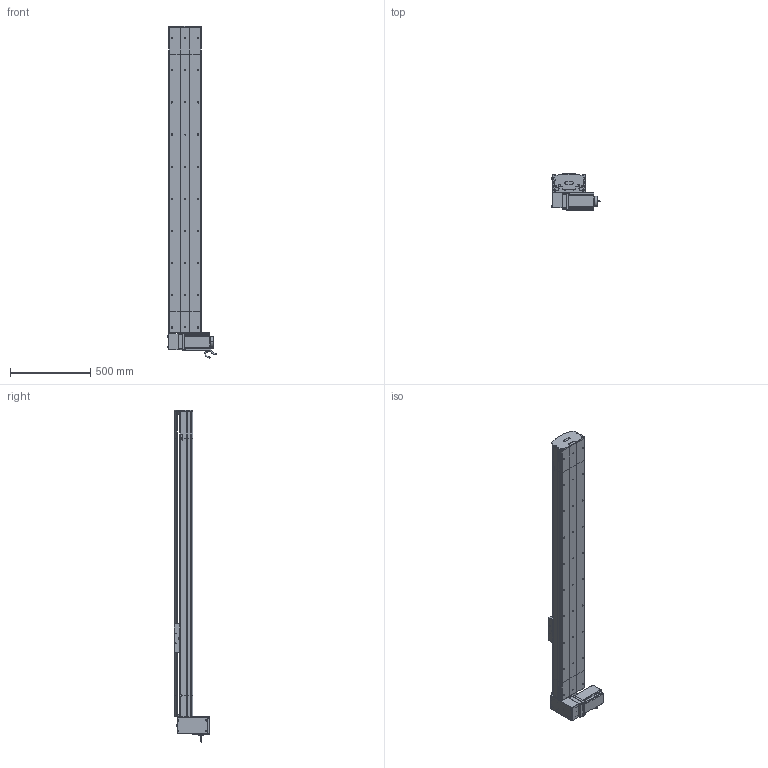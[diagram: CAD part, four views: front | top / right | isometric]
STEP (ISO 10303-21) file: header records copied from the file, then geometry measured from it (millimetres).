
FILE_DESCRIPTION (( 'STEP AP214' ), '1' );
FILE_NAME ('D20 TBH RU S1600.STEP', '2010-07-01T07:28:29', ( 'Conseil Régional Haute-Normandie' ), ( 'Conseil Régional Haute-Normandie' ), 'SwSTEP 2.0', 'SolidWorks 2010', '' );
FILE_SCHEMA (( 'AUTOMOTIVE_DESIGN' ));
Length unit declared in the file: millimetre
Products named in the file (40): head RU_Default; cache arbre D20_Default; vis M5 L25_Default; plaque de  bout head D20B RU_Default; couvercle head D20_Default; rail head D20; poulie head D20_Default; rail tail D20; corpl head D20_Default; Couroie tail D20_Default; plaque de  bout tail D20_Default; poulie tail D20_Default; vis M5 L12_Default; vis M5 L8 90°_Default; tete d''axe poulie D20B; couvercle tail D20_Default; corpl tail D20_Default; tail D20_Default; vis M8 L12_Default; codeur 110BLDC170A-630x; corps 110BLDC170A-630x; avant 110BLDC170A-630x; clavette; Conecteur_Default; Conecteur2_Default; vis M5 L70_Default; Plaque racord D20LH_Default; Moteur motionking 110BLDC170A-640x; Renvoi RU D20_Default; vis M5 L5_Default; couroie_Default; cache D20_Default; chariot D20B_Default; D20 TBH RU S1600; Course B L1600_Default; guide D20B; Chariot D20B; rail + couroie  D20 S1500; couvercle D20 S1600_Default; corp D20 S1600_Default
Assembly tree (71 placements, depth 4):
  D20 TBH RU S1600
    chariot D20B_Default
      guide D20B  x2
      vis M5 L12_Default  x4
      Chariot D20B
    Course B L1600_Default
      corp D20 S1600_Default
      rail + couroie  D20 S1500
      couvercle D20 S1600_Default
    tail D20_Default
      poulie tail D20_Default
      vis M5 L12_Default  x4
      rail tail D20
      vis M5 L8 90°_Default  x2
      vis M5 L25_Default  x2
      tete d''axe poulie D20B
      corpl tail D20_Default
      couvercle tail D20_Default
      Couroie tail D20_Default
      plaque de  bout tail D20_Default
    head RU_Default
      vis M5 L12_Default  x10
      vis M5 L70_Default  x4
      vis M5 L25_Default  x2
      cache D20_Default  x2
      poulie head D20_Default
      couvercle head D20_Default
      vis M8 L12_Default  x4
      couroie_Default
      cache arbre D20_Default
      vis M5 L5_Default  x4
      corpl head D20_Default
      Renvoi RU D20_Default
      plaque de  bout head D20B RU_Default
      Moteur motionking 110BLDC170A-640x
        corps 110BLDC170A-630x
        Conecteur_Default
        avant 110BLDC170A-630x
        clavette
        Conecteur2_Default
        codeur 110BLDC170A-630x
      rail head D20
      Plaque racord D20LH_Default
Bounding box: 304.2 x 223.2 x 2065 mm (x, y, z)
Volume: 17466633.3 mm3; surface area: 4131768.3 mm2
Topology: 95 solids, 95 shells, 2743 faces, 6921 edges, 4465 vertices
Faces by surface type: plane 1620, cylinder 799, bspline 136, cone 99, torus 89
Entity records: 86186 total; most frequent: CARTESIAN_POINT 27529, ORIENTED_EDGE 10498, DIRECTION 9934, EDGE_CURVE 5249, VERTEX_POINT 3451, VECTOR 3422, LINE 3422, AXIS2_PLACEMENT_3D 3256
